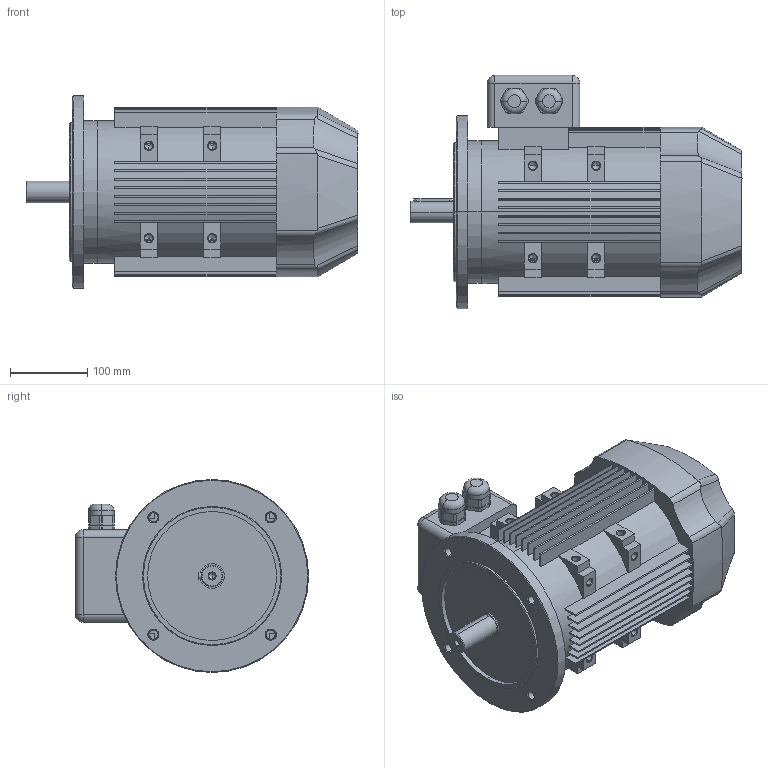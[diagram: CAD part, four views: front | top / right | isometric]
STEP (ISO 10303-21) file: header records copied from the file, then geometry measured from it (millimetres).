
FILE_DESCRIPTION (( 'STEP AP203' ), '1' );
FILE_NAME ('IE2-112M-250-28(B5).STEP', '2023-09-06T10:27:05', ( '' ), ( '' ), 'SwSTEP 2.0', 'SolidWorks 2022', '' );
FILE_SCHEMA (( 'CONFIG_CONTROL_DESIGN' ));
Length unit declared in the file: millimetre
Products named in the file (1): IE2-112M-250-28(B5)
Bounding box: 430 x 302 x 250 mm (x, y, z)
Volume: 12701021.6 mm3; surface area: 650095.9 mm2
Topology: 1 solids, 1 shells, 496 faces, 1349 edges, 861 vertices
Faces by surface type: plane 246, cylinder 157, cone 68, bspline 17, torus 4, sphere 4
Entity records: 16243 total; most frequent: CARTESIAN_POINT 3612, ORIENTED_EDGE 2670, DIRECTION 2629, EDGE_CURVE 1335, AXIS2_PLACEMENT_3D 920, VERTEX_POINT 861, VECTOR 789, LINE 789
